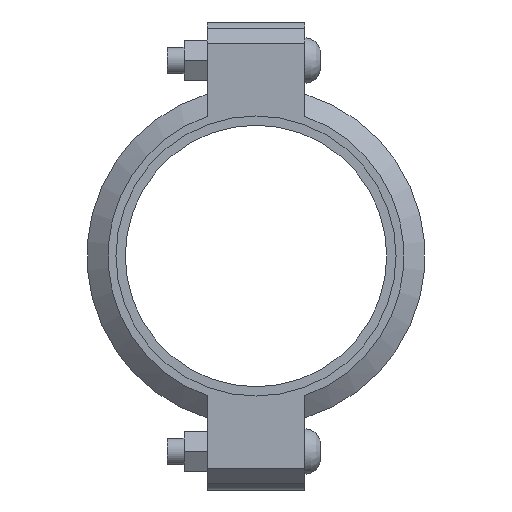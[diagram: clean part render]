
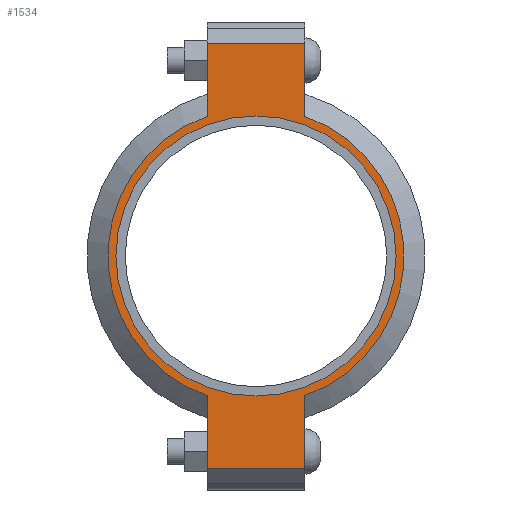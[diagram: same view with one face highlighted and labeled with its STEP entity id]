
A CAD part, left-side view. The second image highlights one B-rep face of the part: STEP entity #1534.
In plain terms, the highlighted planar face has unit normal (-1, 0, 0) as drawn and (0, 0, 1) by its records, which use the part's own axes.
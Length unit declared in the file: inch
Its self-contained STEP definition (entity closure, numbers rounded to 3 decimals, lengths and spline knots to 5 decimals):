
#158=LINE('',#2677,#251);
#166=LINE('',#2713,#259);
#173=LINE('',#2734,#266);
#182=LINE('',#2766,#275);
#183=LINE('',#2770,#276);
#184=LINE('',#2772,#277);
#251=VECTOR('',#2185,0.3937);
#259=VECTOR('',#2201,0.3937);
#266=VECTOR('',#2220,0.3937);
#275=VECTOR('',#2245,0.3937);
#276=VECTOR('',#2250,0.3937);
#277=VECTOR('',#2251,0.3937);
#333=FACE_BOUND('',#511,.T.);
#405=FACE_OUTER_BOUND('',#510,.T.);
#510=EDGE_LOOP('',(#1275,#1276,#1277,#1278,#1279,#1280,#1281,#1282));
#511=EDGE_LOOP('',(#1283));
#583=CIRCLE('',#1753,3.3125);
#609=CIRCLE('',#1812,3.5);
#610=CIRCLE('',#1813,3.5);
#675=VERTEX_POINT('',#2493);
#718=VERTEX_POINT('',#2674);
#719=VERTEX_POINT('',#2676);
#730=VERTEX_POINT('',#2708);
#731=VERTEX_POINT('',#2712);
#738=VERTEX_POINT('',#2731);
#739=VERTEX_POINT('',#2733);
#749=VERTEX_POINT('',#2769);
#750=VERTEX_POINT('',#2771);
#831=EDGE_CURVE('',#675,#675,#583,.T.);
#892=EDGE_CURVE('',#719,#718,#158,.T.);
#906=EDGE_CURVE('',#731,#730,#166,.T.);
#916=EDGE_CURVE('',#739,#738,#173,.T.);
#931=EDGE_CURVE('',#731,#718,#182,.T.);
#932=EDGE_CURVE('',#730,#739,#609,.T.);
#933=EDGE_CURVE('',#749,#738,#183,.T.);
#934=EDGE_CURVE('',#749,#750,#184,.T.);
#935=EDGE_CURVE('',#750,#719,#610,.T.);
#1275=ORIENTED_EDGE('',*,*,#931,.F.);
#1276=ORIENTED_EDGE('',*,*,#906,.T.);
#1277=ORIENTED_EDGE('',*,*,#932,.T.);
#1278=ORIENTED_EDGE('',*,*,#916,.T.);
#1279=ORIENTED_EDGE('',*,*,#933,.F.);
#1280=ORIENTED_EDGE('',*,*,#934,.T.);
#1281=ORIENTED_EDGE('',*,*,#935,.T.);
#1282=ORIENTED_EDGE('',*,*,#892,.T.);
#1283=ORIENTED_EDGE('',*,*,#831,.T.);
#1376=PLANE('',#1811);
#1534=ADVANCED_FACE('',(#405,#333),#1376,.T.);
#1753=AXIS2_PLACEMENT_3D('',#2495,#2061,#2062);
#1811=AXIS2_PLACEMENT_3D('',#2767,#2246,#2247);
#1812=AXIS2_PLACEMENT_3D('',#2768,#2248,#2249);
#1813=AXIS2_PLACEMENT_3D('',#2773,#2252,#2253);
#2061=DIRECTION('center_axis',(0.,0.,-1.));
#2062=DIRECTION('ref_axis',(-1.,0.,0.));
#2185=DIRECTION('',(-1.,0.,0.));
#2201=DIRECTION('',(1.,0.,0.));
#2220=DIRECTION('',(1.,0.,0.));
#2245=DIRECTION('',(0.,1.,0.));
#2246=DIRECTION('center_axis',(0.,0.,1.));
#2247=DIRECTION('ref_axis',(1.,0.,0.));
#2248=DIRECTION('center_axis',(0.,0.,1.));
#2249=DIRECTION('ref_axis',(-1.,0.,0.));
#2250=DIRECTION('',(0.,-1.,0.));
#2251=DIRECTION('',(-1.,0.,0.));
#2252=DIRECTION('center_axis',(0.,0.,1.));
#2253=DIRECTION('ref_axis',(-1.,0.,0.));
#2493=CARTESIAN_POINT('',(3.3125,0.,1.065));
#2495=CARTESIAN_POINT('Origin',(0.,0.,1.065));
#2674=CARTESIAN_POINT('',(-5.035,1.156,1.065));
#2676=CARTESIAN_POINT('',(-3.30358,1.156,1.065));
#2677=CARTESIAN_POINT('',(-5.535,1.156,1.065));
#2708=CARTESIAN_POINT('',(-3.30358,-1.156,1.065));
#2712=CARTESIAN_POINT('',(-5.035,-1.156,1.065));
#2713=CARTESIAN_POINT('',(5.535,-1.156,1.065));
#2731=CARTESIAN_POINT('',(5.035,-1.156,1.065));
#2733=CARTESIAN_POINT('',(3.30358,-1.156,1.065));
#2734=CARTESIAN_POINT('',(5.535,-1.156,1.065));
#2766=CARTESIAN_POINT('',(-5.035,0.578,1.065));
#2767=CARTESIAN_POINT('Origin',(0.,0.,1.065));
#2768=CARTESIAN_POINT('Origin',(0.,0.,1.065));
#2769=CARTESIAN_POINT('',(5.035,1.156,1.065));
#2770=CARTESIAN_POINT('',(5.035,-0.578,1.065));
#2771=CARTESIAN_POINT('',(3.30358,1.156,1.065));
#2772=CARTESIAN_POINT('',(-5.535,1.156,1.065));
#2773=CARTESIAN_POINT('Origin',(0.,0.,1.065));
